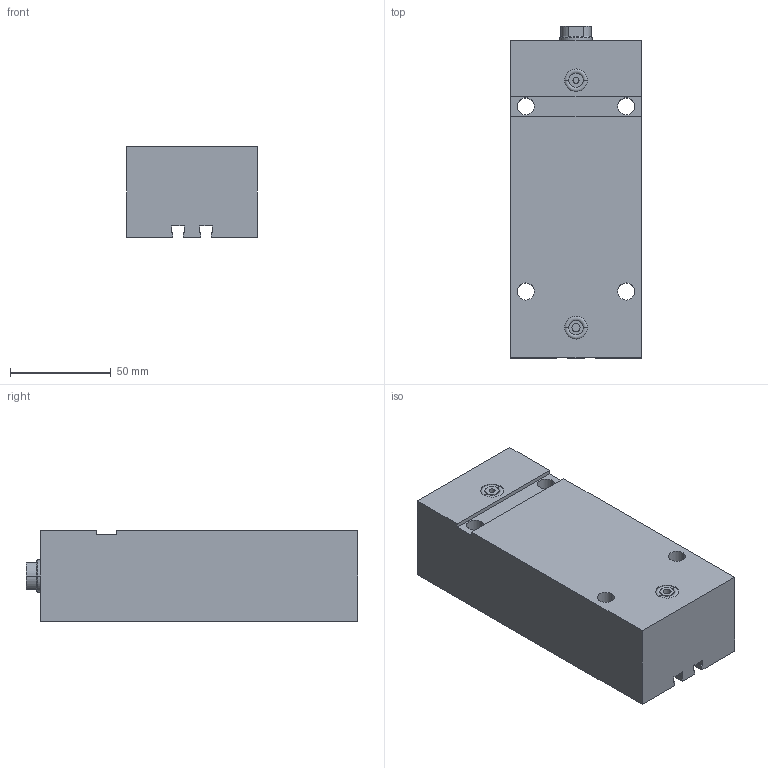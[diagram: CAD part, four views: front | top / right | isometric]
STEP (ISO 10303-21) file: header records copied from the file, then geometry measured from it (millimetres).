
FILE_DESCRIPTION (( 'STEP AP203' ), '1' );
FILE_NAME ('GERMA_Blockzylinder_704-025-100.STEP', '2016-08-01T17:06:02', ( '' ), ( '' ), 'SwSTEP 2.0', 'SolidWorks 2015', '' );
FILE_SCHEMA (( 'CONFIG_CONTROL_DESIGN' ));
Length unit declared in the file: millimetre
Products named in the file (3): Kolben_MT 70x-025_Kolben_MT DU.25-Hub100-IG; GH-700-025_GH-704-025-100; GERMA_Blockzylinder_704-025-100
Assembly tree (2 placements, depth 2):
  GERMA_Blockzylinder_704-025-100
    GH-700-025_GH-704-025-100
    Kolben_MT 70x-025_Kolben_MT DU.25-Hub100-IG
Bounding box: 65 x 165 x 45 mm (x, y, z)
Volume: 411376.2 mm3; surface area: 70189.5 mm2
Topology: 2 solids, 2 shells, 104 faces, 242 edges, 150 vertices
Faces by surface type: cylinder 43, plane 43, cone 14, torus 4
Entity records: 3246 total; most frequent: DIRECTION 555, CARTESIAN_POINT 495, ORIENTED_EDGE 472, EDGE_CURVE 236, AXIS2_PLACEMENT_3D 210, VERTEX_POINT 150, LINE 135, VECTOR 135
